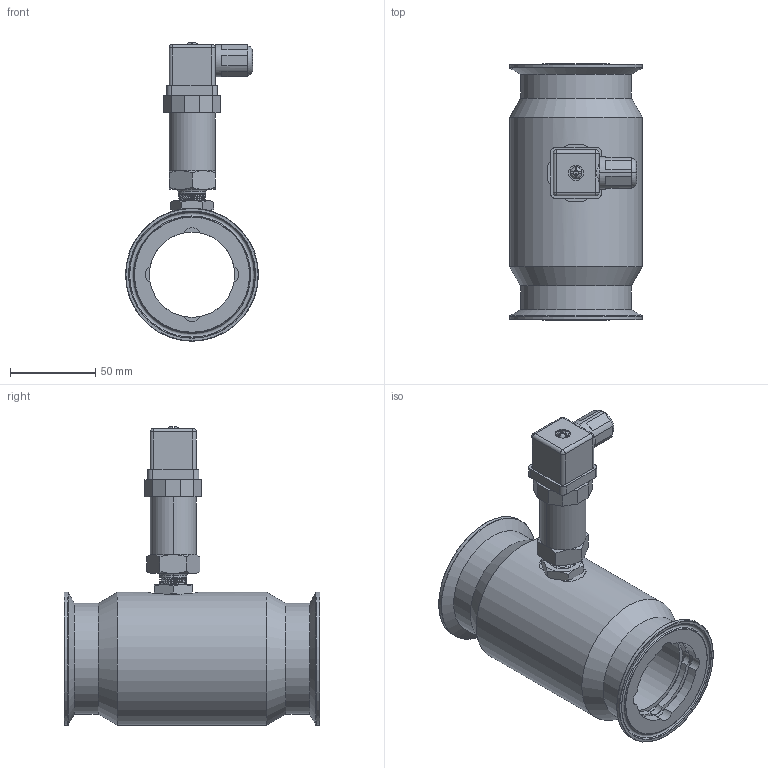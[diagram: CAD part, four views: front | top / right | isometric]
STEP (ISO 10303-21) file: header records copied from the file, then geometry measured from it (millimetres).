
FILE_DESCRIPTION( (''), '2;1');
FILE_NAME( 'QTKB_DN50_tri-clamp_DIN-plug.step', '2024-10-14T08:07:16+08:00', (''), (''), '', '', '');
FILE_SCHEMA (('AUTOMOTIVE_DESIGN { 1 0 10303 214 3 1 1 1 }'));
Length unit declared in the file: millimetre
Products named in the file (1): QTKB DN50_tri-clamp_DIN-plug
Bounding box: 78 x 150 x 175 mm (x, y, z)
Volume: 418953.3 mm3; surface area: 90517 mm2
Topology: 5 solids, 6 shells, 445 faces, 1163 edges, 749 vertices
Faces by surface type: plane 268, cylinder 94, cone 47, bspline 18, torus 14, sphere 4
Full cylindrical faces by diameter (mm): 17.581 x1, 50 x1, 55 x4, 65 x2, 78 x3
Entity records: 17210 total; most frequent: CARTESIAN_POINT 6474, ORIENTED_EDGE 2240, DIRECTION 2137, EDGE_CURVE 1120, VERTEX_POINT 740, AXIS2_PLACEMENT_3D 740, LINE 657, VECTOR 657
